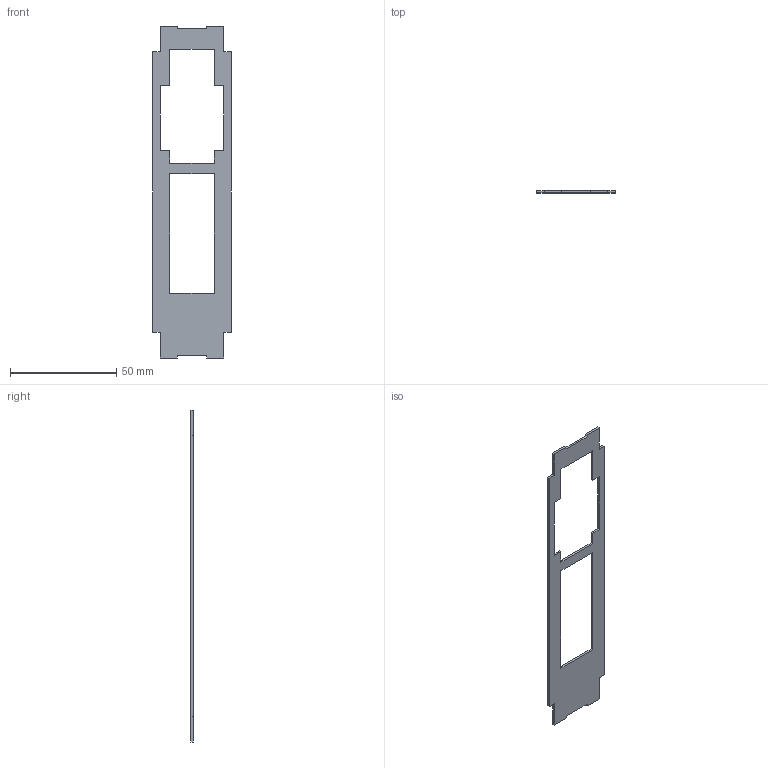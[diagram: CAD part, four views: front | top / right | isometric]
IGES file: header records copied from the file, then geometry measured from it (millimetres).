
Start section:  PTC IGES file: c:\works\pro\dv12silta.igs
Global section: file name: c:\works\pro\dv12silta.igs; native system: Pro/ENGINEER by Parametric Technology Corporation; preprocessor: 2001150; author: telimaa; organization: Unknown; date: 041205.163407; units: millimetre
Bounding box: 36.8 x 1 x 156 mm (x, y, z)
Surface area: 6652 mm2 (no closed solid volume)
Topology: 0 solids, 0 shells, 38 faces, 216 edges, 216 vertices
Faces by surface type: bspline 38
